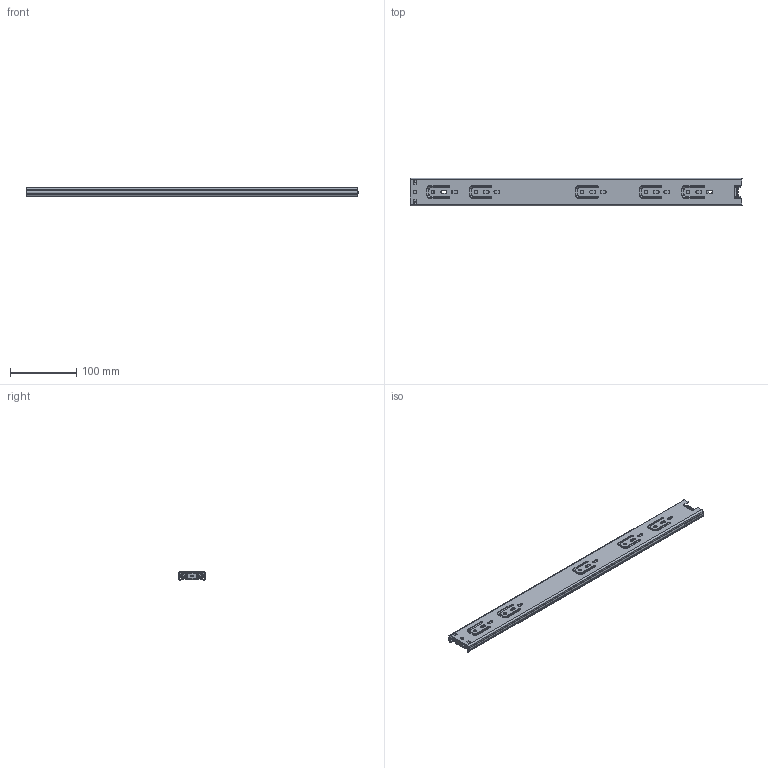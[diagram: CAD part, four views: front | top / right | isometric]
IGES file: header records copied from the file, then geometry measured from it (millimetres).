
Start section: SolidWorks IGES file using analytic representation for surfaces
Global section: file name: D:\grab\Slider\models\Telescopic Slides.IGS; native system: SolidWorks 2019; preprocessor: SolidWorks 2019; author: admin; date: 200123.085038; units: millimetre
Bounding box: 500 x 42 x 13 mm (x, y, z)
Surface area: 172893.3 mm2 (no closed solid volume)
Topology: 0 solids, 0 shells, 1172 faces, 14396 edges, 14319 vertices
Faces by surface type: bspline 689, revolution 483
